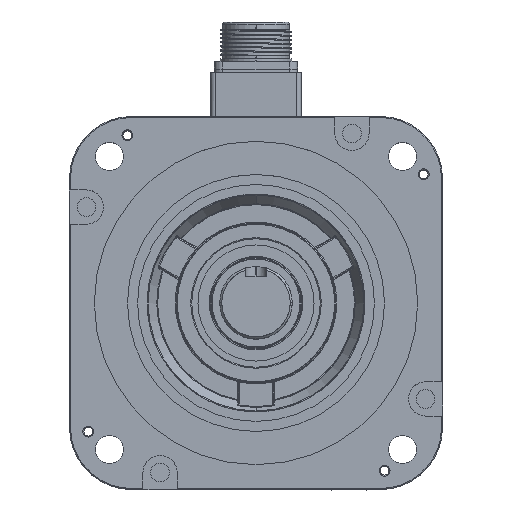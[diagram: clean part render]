
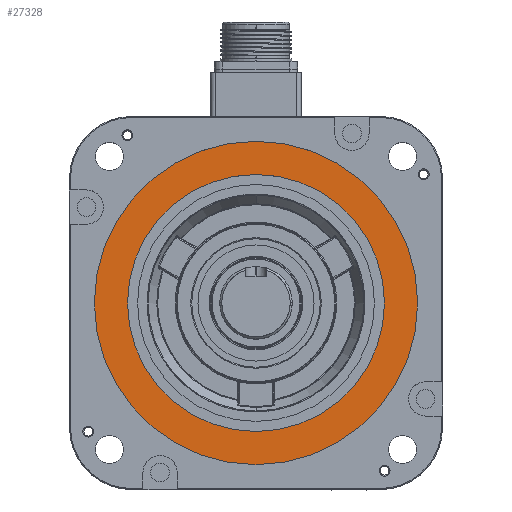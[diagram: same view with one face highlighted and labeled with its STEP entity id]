
A CAD part, top view. The second image highlights one B-rep face of the part: STEP entity #27328.
In plain terms, the highlighted planar face has unit normal (0, 0, 1).
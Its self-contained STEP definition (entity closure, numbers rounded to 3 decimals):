
#276=FACE_BOUND('',#7851,.T.);
#467=PLANE('',#31767);
#6784=FACE_OUTER_BOUND('',#7850,.T.);
#7850=EDGE_LOOP('',(#23999));
#7851=EDGE_LOOP('',(#24000));
#9671=CIRCLE('',#31768,78.);
#9672=CIRCLE('',#31769,62.);
#13792=VERTEX_POINT('',#64502);
#13793=VERTEX_POINT('',#64504);
#18895=EDGE_CURVE('',#13792,#13792,#9671,.T.);
#18896=EDGE_CURVE('',#13793,#13793,#9672,.T.);
#23999=ORIENTED_EDGE('',*,*,#18895,.T.);
#24000=ORIENTED_EDGE('',*,*,#18896,.T.);
#27328=ADVANCED_FACE('',(#6784,#276),#467,.T.);
#31767=AXIS2_PLACEMENT_3D('',#64501,#38092,#38093);
#31768=AXIS2_PLACEMENT_3D('',#64503,#38094,#38095);
#31769=AXIS2_PLACEMENT_3D('',#64505,#38096,#38097);
#38092=DIRECTION('center_axis',(0.,0.,1.));
#38093=DIRECTION('ref_axis',(1.,0.,0.));
#38094=DIRECTION('center_axis',(0.,0.,1.));
#38095=DIRECTION('ref_axis',(1.,0.,0.));
#38096=DIRECTION('center_axis',(0.,0.,-1.));
#38097=DIRECTION('ref_axis',(-1.,0.,0.));
#64501=CARTESIAN_POINT('Origin',(36.315,140.247,90.807));
#64502=CARTESIAN_POINT('',(114.315,219.183,90.807));
#64503=CARTESIAN_POINT('Origin',(36.315,219.183,90.807));
#64504=CARTESIAN_POINT('',(98.315,219.183,90.807));
#64505=CARTESIAN_POINT('Origin',(36.315,219.183,90.807));
